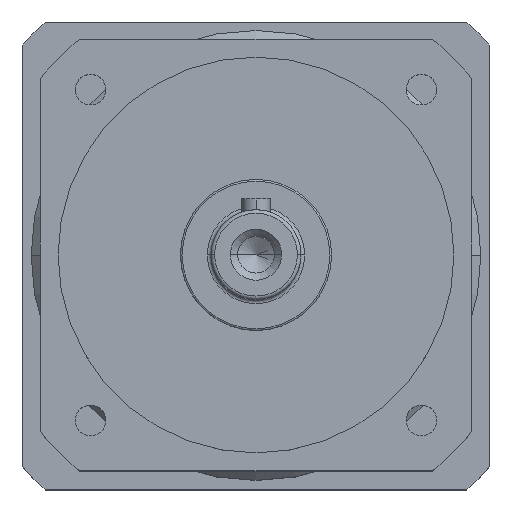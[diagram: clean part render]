
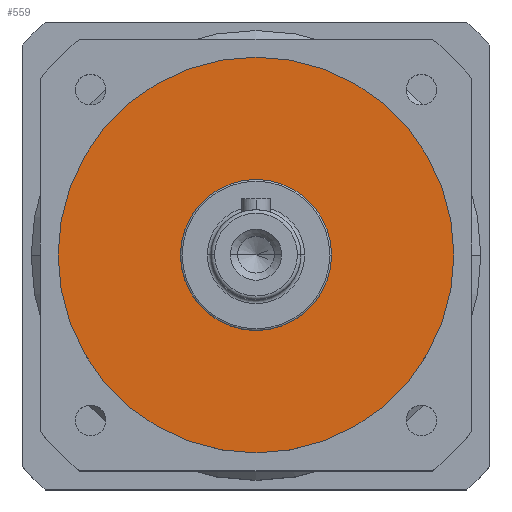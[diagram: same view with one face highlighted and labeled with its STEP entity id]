
A CAD part, top view. The second image highlights one B-rep face of the part: STEP entity #559.
In plain terms, the highlighted planar face has unit normal (0, 0, 1).
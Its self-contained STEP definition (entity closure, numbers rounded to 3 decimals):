
#101 = EDGE_CURVE ( 'NONE', #2514, #1661, #1891, .T. ) ;
#150 = EDGE_CURVE ( 'NONE', #1409, #2823, #3241, .T. ) ;
#374 = ORIENTED_EDGE ( 'NONE', *, *, #101, .T. ) ;
#377 = DIRECTION ( 'NONE',  ( 0., 0., 1. ) ) ;
#478 = DIRECTION ( 'NONE',  ( 0., 0., 1. ) ) ;
#559 = ADVANCED_FACE ( 'NONE', ( #1072, #898 ), #1870, .T. ) ;
#592 = CARTESIAN_POINT ( 'NONE',  ( 0., 0., 19. ) ) ;
#792 = ORIENTED_EDGE ( 'NONE', *, *, #150, .F. ) ;
#811 = AXIS2_PLACEMENT_3D ( 'NONE', #592, #2501, #1678 ) ;
#898 = FACE_OUTER_BOUND ( 'NONE', #2673, .T. ) ;
#1072 = FACE_BOUND ( 'NONE', #1750, .T. ) ;
#1160 = CARTESIAN_POINT ( 'NONE',  ( 21., 0., 19. ) ) ;
#1246 = AXIS2_PLACEMENT_3D ( 'NONE', #1549, #1625, #2622 ) ;
#1318 = DIRECTION ( 'NONE',  ( 1., 0., 0. ) ) ;
#1407 = CARTESIAN_POINT ( 'NONE',  ( -55., 0., 19. ) ) ;
#1409 = VERTEX_POINT ( 'NONE', #1160 ) ;
#1464 = CARTESIAN_POINT ( 'NONE',  ( 0., 0., 19. ) ) ;
#1468 = DIRECTION ( 'NONE',  ( 1., 0., 0. ) ) ;
#1496 = ORIENTED_EDGE ( 'NONE', *, *, #3178, .T. ) ;
#1539 = AXIS2_PLACEMENT_3D ( 'NONE', #1464, #1744, #1468 ) ;
#1549 = CARTESIAN_POINT ( 'NONE',  ( 0., 0., 19. ) ) ;
#1599 = CARTESIAN_POINT ( 'NONE',  ( 0., 0., 19. ) ) ;
#1625 = DIRECTION ( 'NONE',  ( 0., 0., 1. ) ) ;
#1661 = VERTEX_POINT ( 'NONE', #1407 ) ;
#1678 = DIRECTION ( 'NONE',  ( 1., 0., 0. ) ) ;
#1744 = DIRECTION ( 'NONE',  ( 0., 0., 1. ) ) ;
#1750 = EDGE_LOOP ( 'NONE', ( #2127, #792 ) ) ;
#1870 = PLANE ( 'NONE',  #2178 ) ;
#1891 = CIRCLE ( 'NONE', #1539, 55. ) ;
#2005 = DIRECTION ( 'NONE',  ( 1., 0., 0. ) ) ;
#2127 = ORIENTED_EDGE ( 'NONE', *, *, #2192, .F. ) ;
#2147 = CARTESIAN_POINT ( 'NONE',  ( 55., 0., 19. ) ) ;
#2178 = AXIS2_PLACEMENT_3D ( 'NONE', #1599, #478, #1318 ) ;
#2192 = EDGE_CURVE ( 'NONE', #2823, #1409, #3099, .T. ) ;
#2342 = CARTESIAN_POINT ( 'NONE',  ( 0., 0., 19. ) ) ;
#2501 = DIRECTION ( 'NONE',  ( 0., 0., 1. ) ) ;
#2514 = VERTEX_POINT ( 'NONE', #2147 ) ;
#2576 = CIRCLE ( 'NONE', #1246, 55. ) ;
#2622 = DIRECTION ( 'NONE',  ( 1., 0., 0. ) ) ;
#2673 = EDGE_LOOP ( 'NONE', ( #1496, #374 ) ) ;
#2823 = VERTEX_POINT ( 'NONE', #3421 ) ;
#3037 = AXIS2_PLACEMENT_3D ( 'NONE', #2342, #377, #2005 ) ;
#3099 = CIRCLE ( 'NONE', #3037, 21. ) ;
#3178 = EDGE_CURVE ( 'NONE', #1661, #2514, #2576, .T. ) ;
#3241 = CIRCLE ( 'NONE', #811, 21. ) ;
#3421 = CARTESIAN_POINT ( 'NONE',  ( -21., 0., 19. ) ) ;
